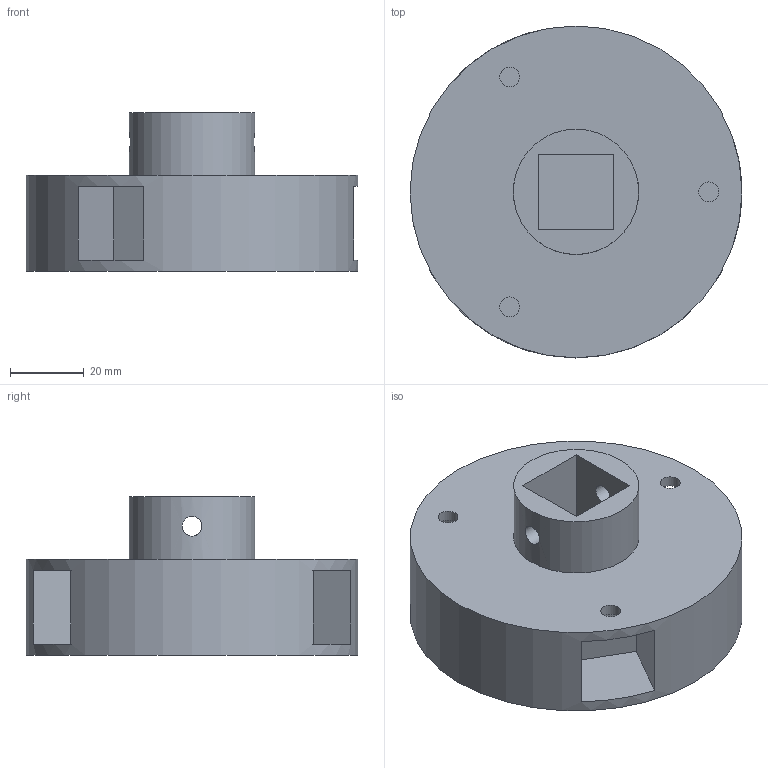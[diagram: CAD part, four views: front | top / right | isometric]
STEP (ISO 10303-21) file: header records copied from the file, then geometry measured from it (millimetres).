
FILE_DESCRIPTION(('Open CASCADE Model'),'2;1');
FILE_NAME('Open CASCADE Shape Model','2026-10-02T23:27:49',('Author'),( 'Open CASCADE'),'Open CASCADE STEP processor 7.9','Open CASCADE 7.9' ,'Unknown');
FILE_SCHEMA(('AUTOMOTIVE_DESIGN { 1 0 10303 214 1 1 1 1 }'));
Length unit declared in the file: millimetre
Products named in the file (1): Open CASCADE STEP translator 7.9 16
Bounding box: 90 x 90 x 43 mm (x, y, z)
Volume: 139091.5 mm3; surface area: 30039.2 mm2
Topology: 1 solids, 1 shells, 30 faces, 75 edges, 50 vertices
Faces by surface type: plane 23, cylinder 7
Full cylindrical faces by diameter (mm): 5.4 x5, 34 x1, 90 x1
Entity records: 2280 total; most frequent: CARTESIAN_POINT 794, DIRECTION 259, LINE 153, VECTOR 153, ORIENTED_EDGE 150, PCURVE 150, DEFINITIONAL_REPRESENTATION 150, EDGE_CURVE 75
